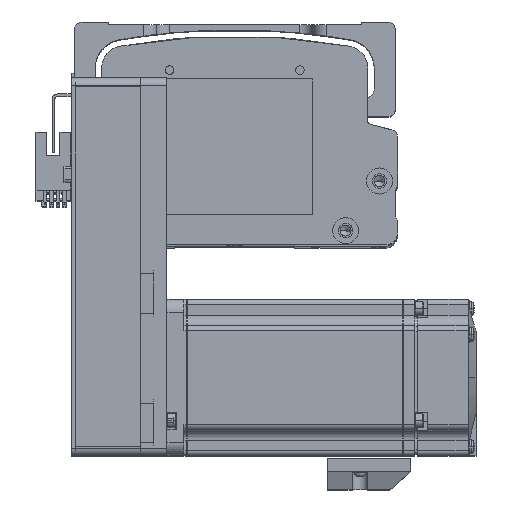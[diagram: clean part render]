
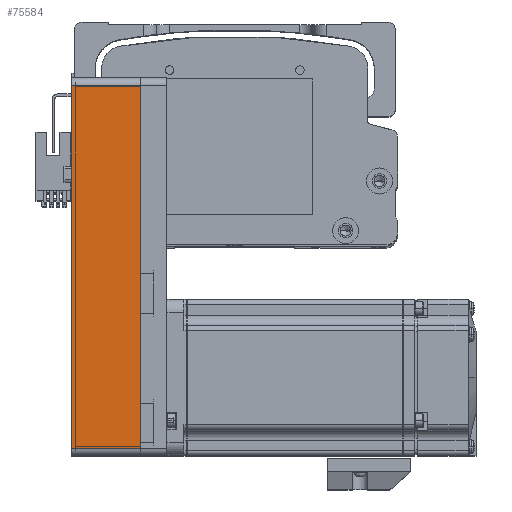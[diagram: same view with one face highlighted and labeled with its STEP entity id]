
A CAD part, top view. The second image highlights one B-rep face of the part: STEP entity #75584.
In plain terms, the highlighted planar face has unit normal (0, 0, 1) as drawn and (0, 1, 0) by its records, which use the part's own axes.
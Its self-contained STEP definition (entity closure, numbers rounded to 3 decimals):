
#241 = VECTOR ( 'NONE', #28675, 1000. ) ;
#12251 = LINE ( 'NONE', #65557, #76335 ) ;
#13971 = EDGE_LOOP ( 'NONE', ( #65059, #47738, #29979, #32448 ) ) ;
#14429 = PLANE ( 'NONE',  #35910 ) ;
#14694 = DIRECTION ( 'NONE',  ( 0., -1., 0. ) ) ;
#21793 = VERTEX_POINT ( 'NONE', #41369 ) ;
#22561 = FACE_OUTER_BOUND ( 'NONE', #13971, .T. ) ;
#23482 = VECTOR ( 'NONE', #28060, 1000. ) ;
#24978 = EDGE_CURVE ( 'NONE', #49763, #21793, #12251, .T. ) ;
#28060 = DIRECTION ( 'NONE',  ( 0., 0., 1. ) ) ;
#28675 = DIRECTION ( 'NONE',  ( -1., 0., 0. ) ) ;
#29979 = ORIENTED_EDGE ( 'NONE', *, *, #69826, .F. ) ;
#32448 = ORIENTED_EDGE ( 'NONE', *, *, #24978, .T. ) ;
#33227 = LINE ( 'NONE', #65875, #241 ) ;
#35910 = AXIS2_PLACEMENT_3D ( 'NONE', #51908, #14694, #58074 ) ;
#36093 = EDGE_CURVE ( 'NONE', #21793, #48746, #46863, .T. ) ;
#40877 = DIRECTION ( 'NONE',  ( 0., 0., -1. ) ) ;
#41369 = CARTESIAN_POINT ( 'NONE',  ( 69.5, 30., 0. ) ) ;
#42941 = VECTOR ( 'NONE', #78718, 1000. ) ;
#46863 = LINE ( 'NONE', #72437, #42941 ) ;
#47738 = ORIENTED_EDGE ( 'NONE', *, *, #54468, .T. ) ;
#48746 = VERTEX_POINT ( 'NONE', #54236 ) ;
#49763 = VERTEX_POINT ( 'NONE', #60081 ) ;
#51908 = CARTESIAN_POINT ( 'NONE',  ( 72.5, 30., 26.5 ) ) ;
#54236 = CARTESIAN_POINT ( 'NONE',  ( -69.5, 30., 0. ) ) ;
#54468 = EDGE_CURVE ( 'NONE', #48746, #78128, #79902, .T. ) ;
#58074 = DIRECTION ( 'NONE',  ( 1., 0., 0. ) ) ;
#60071 = CARTESIAN_POINT ( 'NONE',  ( -69.5, 30., 26.5 ) ) ;
#60081 = CARTESIAN_POINT ( 'NONE',  ( 69.5, 30., 26.5 ) ) ;
#65059 = ORIENTED_EDGE ( 'NONE', *, *, #36093, .T. ) ;
#65270 = CARTESIAN_POINT ( 'NONE',  ( -69.5, 30., 26.5 ) ) ;
#65557 = CARTESIAN_POINT ( 'NONE',  ( 69.5, 30., 26.5 ) ) ;
#65875 = CARTESIAN_POINT ( 'NONE',  ( 72.5, 30., 26.5 ) ) ;
#69826 = EDGE_CURVE ( 'NONE', #49763, #78128, #33227, .T. ) ;
#72437 = CARTESIAN_POINT ( 'NONE',  ( 72.5, 30., 0. ) ) ;
#75584 = ADVANCED_FACE ( 'NONE', ( #22561 ), #14429, .F. ) ;
#76335 = VECTOR ( 'NONE', #40877, 1000. ) ;
#78128 = VERTEX_POINT ( 'NONE', #60071 ) ;
#78718 = DIRECTION ( 'NONE',  ( -1., 0., 0. ) ) ;
#79902 = LINE ( 'NONE', #65270, #23482 ) ;
